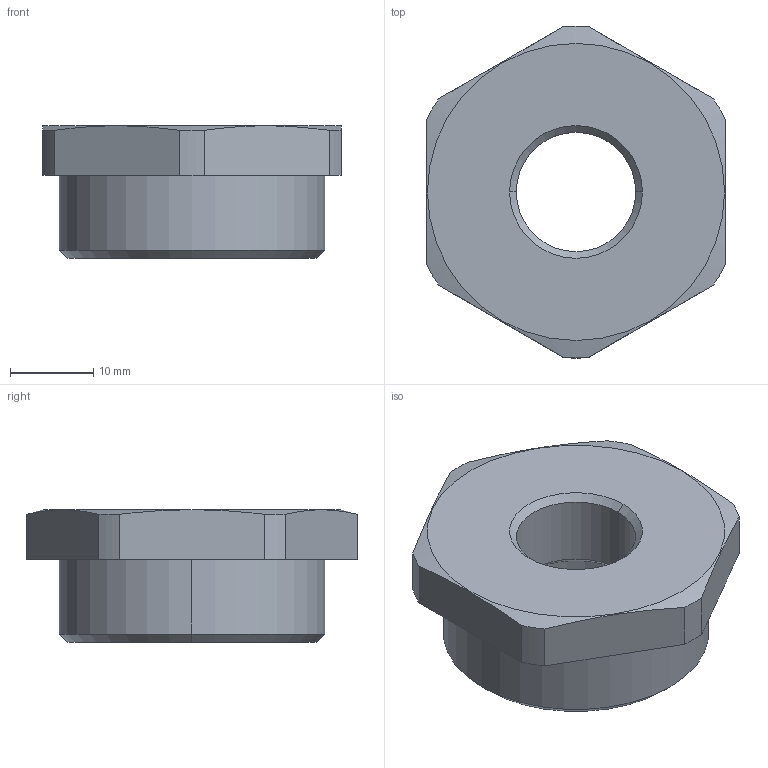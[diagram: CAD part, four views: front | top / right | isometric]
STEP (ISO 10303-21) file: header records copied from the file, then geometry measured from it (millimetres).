
FILE_DESCRIPTION (( 'STEP AP203' ), '1' );
FILE_NAME ('M32M16 PA.STEP', '2005-12-09T07:40:31', ( ' ' ), ( '' ), 'SwSTEP 2.0', 'SolidWorks 2005278', '' );
FILE_SCHEMA (( 'CONFIG_CONTROL_DESIGN' ));
Length unit declared in the file: millimetre
Products named in the file (1): M32M16 PA
Bounding box: 36 x 39.99 x 16 mm (x, y, z)
Volume: 8418.3 mm3; surface area: 5484.6 mm2
Topology: 1 solids, 1 shells, 70 faces, 180 edges, 118 vertices
Faces by surface type: plane 48, cylinder 14, cone 8
Entity records: 2229 total; most frequent: CARTESIAN_POINT 421, ORIENTED_EDGE 360, DIRECTION 350, EDGE_CURVE 180, VECTOR 136, LINE 136, VERTEX_POINT 118, AXIS2_PLACEMENT_3D 107
